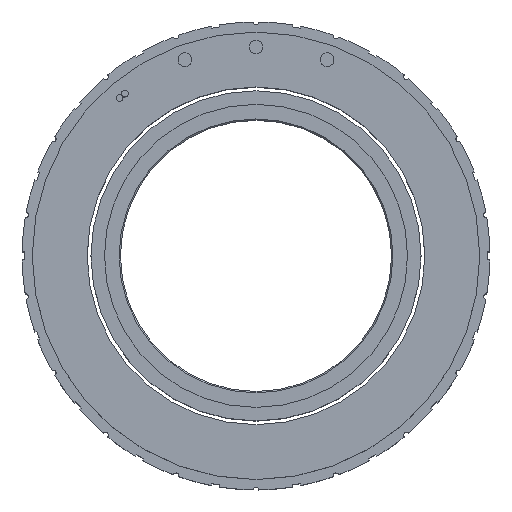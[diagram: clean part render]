
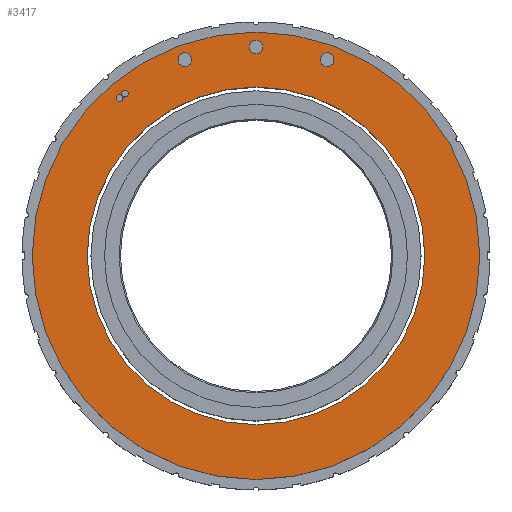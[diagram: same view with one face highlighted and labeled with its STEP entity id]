
A CAD part, top view. The second image highlights one B-rep face of the part: STEP entity #3417.
In plain terms, the highlighted planar face has unit normal (0, 0, 1).
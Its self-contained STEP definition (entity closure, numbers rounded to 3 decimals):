
#74 = ORIENTED_EDGE ( 'NONE', *, *, #3978, .T. ) ;
#112 = CARTESIAN_POINT ( 'NONE',  ( 0., 0., 25. ) ) ;
#226 = EDGE_CURVE ( 'NONE', #1747, #2834, #3006, .T. ) ;
#396 = DIRECTION ( 'NONE',  ( 0., 0., 1. ) ) ;
#443 = AXIS2_PLACEMENT_3D ( 'NONE', #3480, #4648, #4184 ) ;
#550 = CARTESIAN_POINT ( 'NONE',  ( 0., 0., 25. ) ) ;
#916 = DIRECTION ( 'NONE',  ( 1., 0., 0. ) ) ;
#1088 = EDGE_CURVE ( 'NONE', #3344, #3902, #2579, .T. ) ;
#1345 = DIRECTION ( 'NONE',  ( 1., 0., 0. ) ) ;
#1420 = CARTESIAN_POINT ( 'NONE',  ( 0., 0., 25. ) ) ;
#1452 = FACE_BOUND ( 'NONE', #1629, .T. ) ;
#1476 = FACE_OUTER_BOUND ( 'NONE', #3893, .T. ) ;
#1520 = ORIENTED_EDGE ( 'NONE', *, *, #2933, .F. ) ;
#1567 = CARTESIAN_POINT ( 'NONE',  ( -24.9, 0., 25. ) ) ;
#1589 = AXIS2_PLACEMENT_3D ( 'NONE', #1420, #2646, #1345 ) ;
#1629 = EDGE_LOOP ( 'NONE', ( #2474, #1520 ) ) ;
#1747 = VERTEX_POINT ( 'NONE', #3913 ) ;
#1940 = CARTESIAN_POINT ( 'NONE',  ( 33., 0., 25. ) ) ;
#2001 = CIRCLE ( 'NONE', #4076, 24.9 ) ;
#2022 = CARTESIAN_POINT ( 'NONE',  ( 0., 0., 25. ) ) ;
#2436 = DIRECTION ( 'NONE',  ( 0., 0., 1. ) ) ;
#2449 = AXIS2_PLACEMENT_3D ( 'NONE', #112, #396, #916 ) ;
#2474 = ORIENTED_EDGE ( 'NONE', *, *, #226, .F. ) ;
#2579 = CIRCLE ( 'NONE', #1589, 33. ) ;
#2646 = DIRECTION ( 'NONE',  ( 0., 0., 1. ) ) ;
#2834 = VERTEX_POINT ( 'NONE', #1567 ) ;
#2933 = EDGE_CURVE ( 'NONE', #2834, #1747, #2001, .T. ) ;
#3006 = CIRCLE ( 'NONE', #4825, 24.9 ) ;
#3316 = DIRECTION ( 'NONE',  ( 1., 0., 0. ) ) ;
#3344 = VERTEX_POINT ( 'NONE', #4915 ) ;
#3417 = ADVANCED_FACE ( 'NONE', ( #1476, #1452 ), #3872, .T. ) ;
#3480 = CARTESIAN_POINT ( 'NONE',  ( 0., 0., 25. ) ) ;
#3791 = ORIENTED_EDGE ( 'NONE', *, *, #1088, .T. ) ;
#3872 = PLANE ( 'NONE',  #443 ) ;
#3893 = EDGE_LOOP ( 'NONE', ( #3791, #74 ) ) ;
#3902 = VERTEX_POINT ( 'NONE', #1940 ) ;
#3913 = CARTESIAN_POINT ( 'NONE',  ( 24.9, 0., 25. ) ) ;
#3978 = EDGE_CURVE ( 'NONE', #3902, #3344, #4109, .T. ) ;
#4076 = AXIS2_PLACEMENT_3D ( 'NONE', #550, #4897, #4190 ) ;
#4109 = CIRCLE ( 'NONE', #2449, 33. ) ;
#4184 = DIRECTION ( 'NONE',  ( 1., 0., 0. ) ) ;
#4190 = DIRECTION ( 'NONE',  ( 1., 0., 0. ) ) ;
#4648 = DIRECTION ( 'NONE',  ( 0., 0., 1. ) ) ;
#4825 = AXIS2_PLACEMENT_3D ( 'NONE', #2022, #2436, #3316 ) ;
#4897 = DIRECTION ( 'NONE',  ( 0., 0., 1. ) ) ;
#4915 = CARTESIAN_POINT ( 'NONE',  ( -33., 0., 25. ) ) ;
